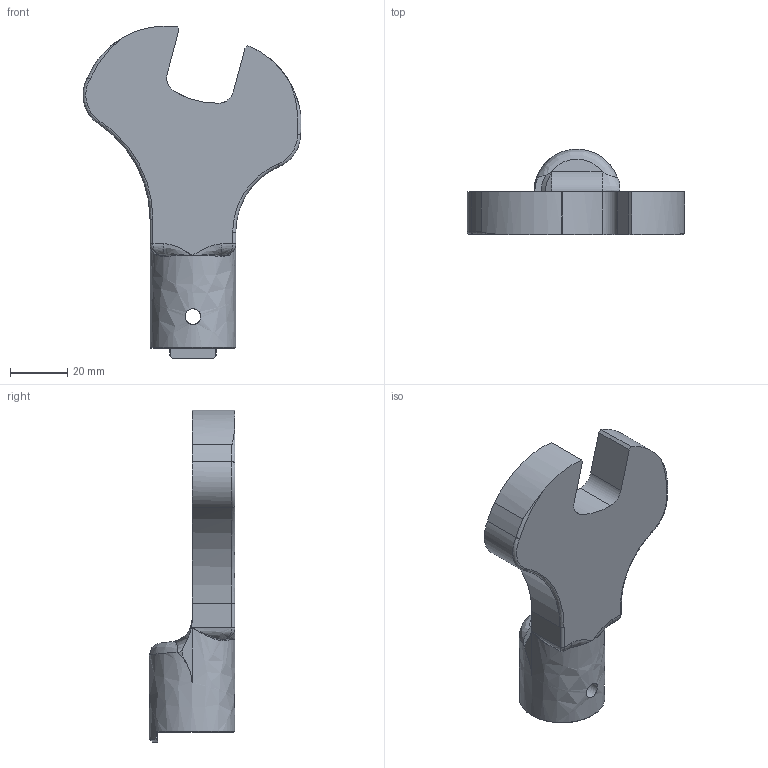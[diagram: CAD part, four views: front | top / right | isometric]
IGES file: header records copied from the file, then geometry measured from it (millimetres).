
Global section: file name: SH22DX24; native system: Autodesk Inventor 2016; preprocessor: unknown; author: Q600; date: 20151029.174938; units: millimetre
Bounding box: 76.36 x 30 x 116.29 mm (x, y, z)
Volume: 65289.3 mm3; surface area: 16718.2 mm2
Topology: 1 solids, 1 shells, 63 faces, 171 edges, 101 vertices
Faces by surface type: bspline 63
